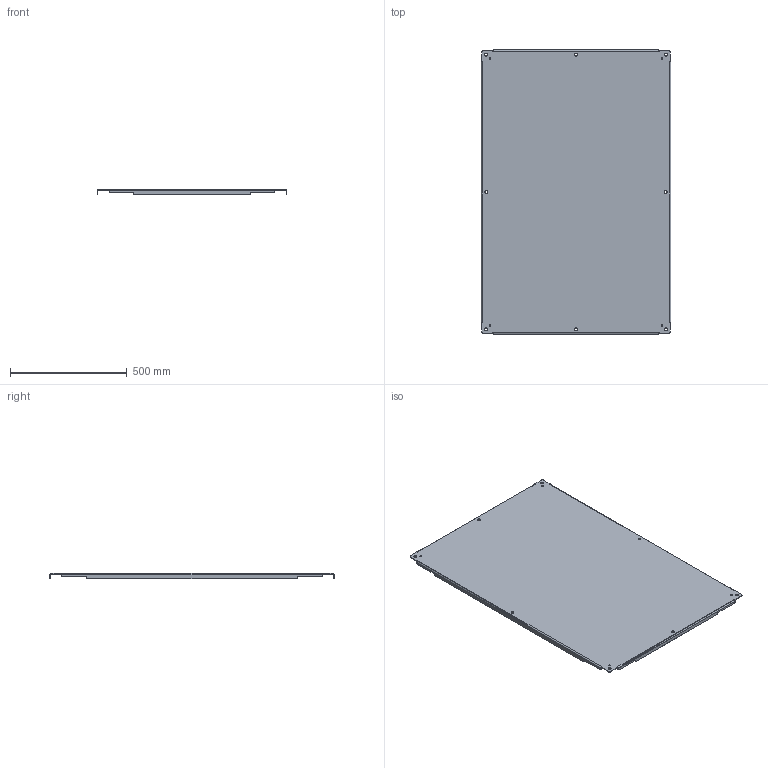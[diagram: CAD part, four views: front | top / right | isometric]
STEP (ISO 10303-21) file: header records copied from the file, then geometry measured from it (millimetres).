
FILE_DESCRIPTION((''),'2;1');
FILE_NAME('MODEL-075_ASM','2020-05-06T08:37:42',('joelb'),('SAGINAW CONTROL & ENGINEERING'),'CREO PARAMETRIC BY PTC INC, 2017260','CREO PARAMETRIC BY PTC INC, 2017260','');
FILE_SCHEMA(('AUTOMOTIVE_DESIGN { 1 0 10303 214 1 1 1 1 }'));
Length unit declared in the file: inch
Products named in the file (3): MODEL-075-SUBPNL; SCE-FSPS6; MODEL-075_ASM
Assembly tree (2 placements, depth 2):
  MODEL-075_ASM
    MODEL-075-SUBPNL
    SCE-FSPS6
Bounding box: 811.21 x 1217.61 x 22.23 mm (x, y, z)
Volume: 3305503.5 mm3; surface area: 2096656.8 mm2
Topology: 1 solids, 1 shells, 130 faces, 352 edges, 224 vertices
Faces by surface type: plane 54, cylinder 52, bspline 24
Entity records: 7642 total; most frequent: CARTESIAN_POINT 1379, ORIENTED_EDGE 704, DIRECTION 678, PRESENTATION_STYLE_ASSIGNMENT 483, STYLED_ITEM 483, CURVE_STYLE 352, EDGE_CURVE 352, AXIS2_PLACEMENT_3D 231
